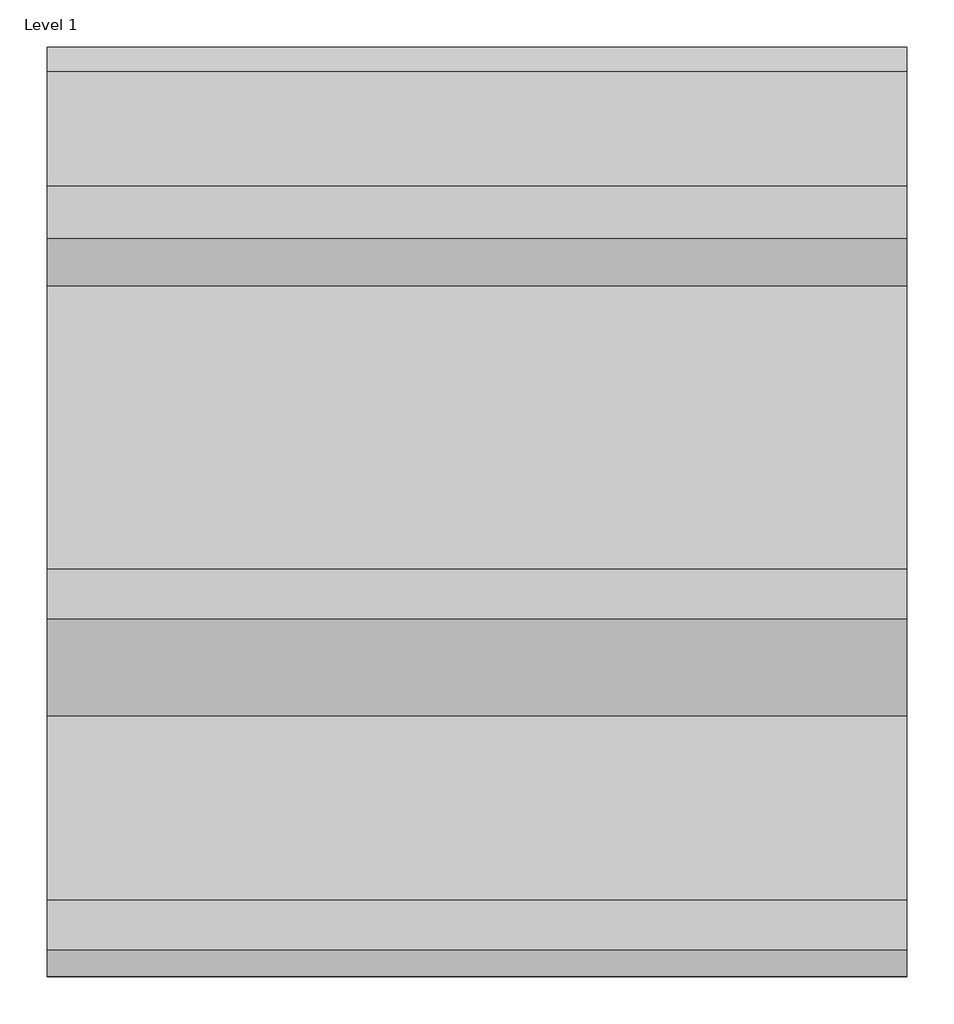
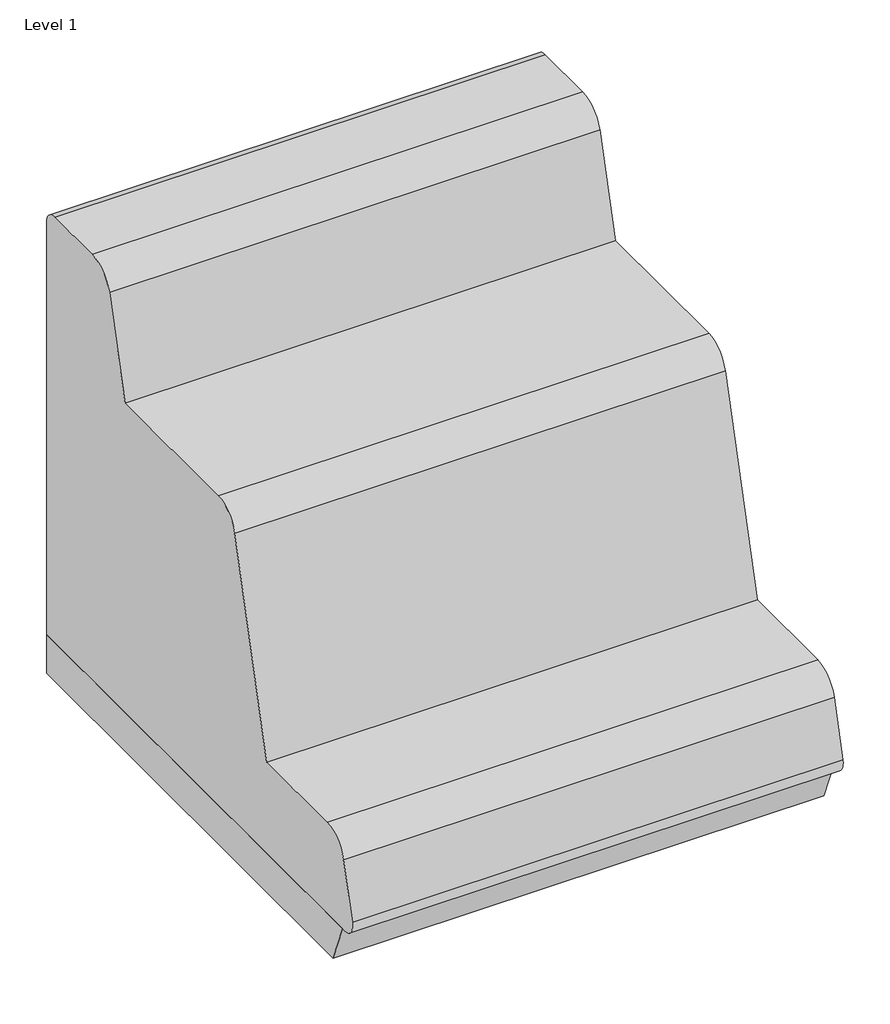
# One storey: 1 furniture element.
"""IFC4 building model written with IfcOpenShell, lengths in millimetres."""

from ifc_helpers import new_model, si_unit, origin, place, context, project, spatial, transform, mapped, element, save
from components import tm_3s_7ce47026

model = new_model("IFC4")

# Units and contexts
model_context = context("Model", 3, world=origin())
ifc_project = project(units=[si_unit("LENGTHUNIT", "METRE", prefix="MILLI")], contexts=[model_context])

# Site, building, storey
site = spatial("IfcSite", under=ifc_project)
building = spatial("IfcBuilding", under=site)
storey = spatial("IfcBuildingStorey", under=building, Name="Level 1", Elevation=0.0)

# Furniture
placement = place(None, origin())
tm_3s_shape = tm_3s_7ce47026(model_context)
element("IfcFurniture", 1, ObjectType="TM3S-CF_Group-Moss_Tier-3_Level-Straight : TM-3S", at=placement, inside=storey, context=model_context, shape_type="MappedRepresentation", body=[
    mapped(tm_3s_shape, transform((1497.9872135, 2744.0272618, 0.0), x_axis=(1.0, 0.0, 0.0), y_axis=(0.0, 1.0, 0.0), z_axis=(0.0, 0.0, 1.0))),
])

save(model, "model.ifc")
